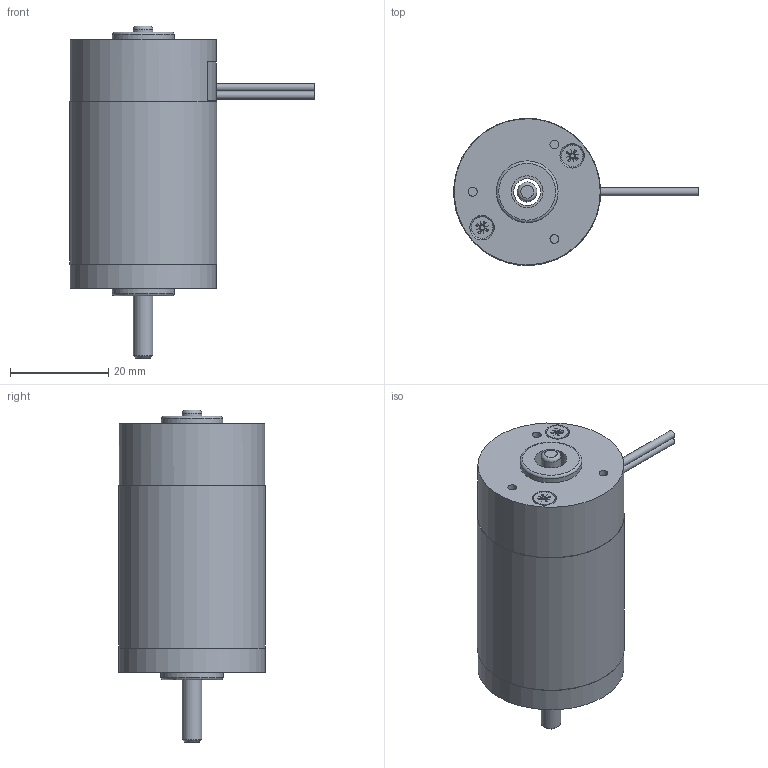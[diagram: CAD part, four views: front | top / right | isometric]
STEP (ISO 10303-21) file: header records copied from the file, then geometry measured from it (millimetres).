
FILE_DESCRIPTION((''),'2;1');
FILE_NAME('D:\연구개발부2팀 1파트\10_진행업무\3D\RM3_SERIES\RM32ㅁBL.stp','2014-06-23T09:58:23',('song'),(''),'Autodesk Inventor 2011','Autodesk Inventor 2011','');
FILE_SCHEMA(('AUTOMOTIVE_DESIGN { 1 0 10303 214 1 1 1 1 }'));
Length unit declared in the file: millimetre
Products named in the file (7): RM32ㅁBL; RM3_front; RM32_SHAFT; RM3_PIPE_HOUSING_30X33.1; RM3_REAR_HOUSING; RM3_BRUSH_LEAD_WIRE_TYPE; AS 1427 Z - 미터 M2.5 x 10
Assembly tree (7 placements, depth 2):
  RM32ㅁBL
    RM3_front
    RM32_SHAFT
    RM3_PIPE_HOUSING_30X33.1
    RM3_REAR_HOUSING
    RM3_BRUSH_LEAD_WIRE_TYPE
    AS 1427 Z - 미터 M2.5 x 10  x2
Bounding box: 49.87 x 29.94 x 67.71 mm (x, y, z)
Volume: 24199.9 mm3; surface area: 13088.5 mm2
Topology: 7 solids, 8 shells, 137 faces, 324 edges, 207 vertices
Faces by surface type: plane 62, cone 35, cylinder 29, torus 11
Full cylindrical faces by diameter (mm): 1.6 x2, 1.8 x3, 2 x3, 2.224 x2, 2.5 x2, 2.6 x2, 3.969 x1, 4 x1, 4.4 x2, 5.5 x1, 6.5 x1, 12.6 x1, 12.7 x1, 17.855 x1, 27.2 x1, 29.8 x2, 30 x1
Entity records: 2916 total; most frequent: CARTESIAN_POINT 658, DIRECTION 452, ORIENTED_EDGE 356, AXIS2_PLACEMENT_3D 200, EDGE_CURVE 178, EDGE_LOOP 155, VERTEX_POINT 130, FACE_OUTER_BOUND 96
